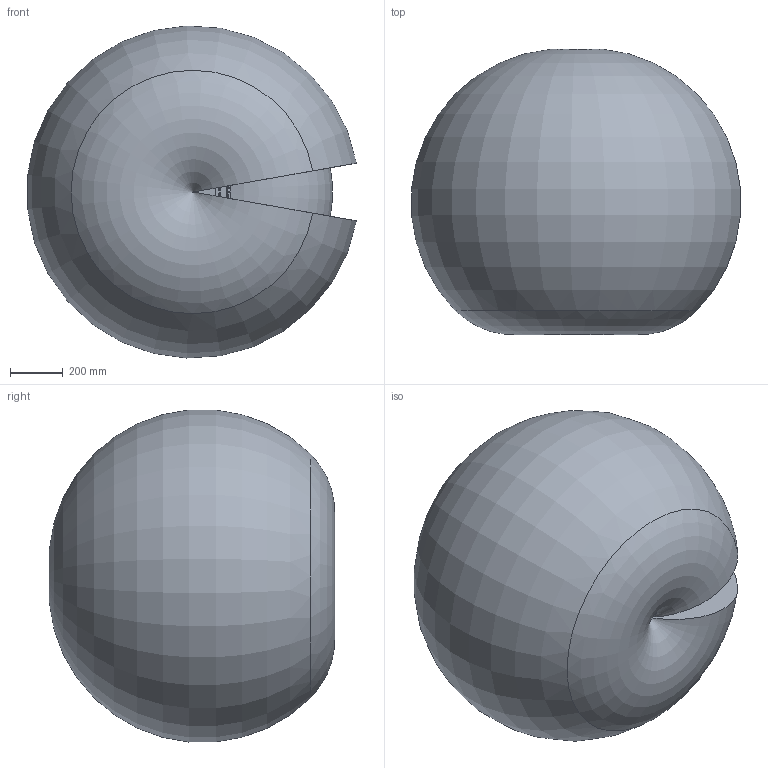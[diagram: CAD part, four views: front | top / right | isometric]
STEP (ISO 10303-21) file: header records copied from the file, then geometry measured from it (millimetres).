
FILE_DESCRIPTION (( 'STEP AP214' ), '1' );
FILE_NAME ('Racer3_p00 (3D-STEP).STEP', '2015-11-11T16:19:30', ( '' ), ( '' ), 'SwSTEP 2.0', 'SolidWorks 2014', '' );
FILE_SCHEMA (( 'AUTOMOTIVE_DESIGN' ));
Length unit declared in the file: millimetre
Products named in the file (9): Operation Area Racer3; Racer3_p07; Racer3_p06; Racer3_p05; Racer3_p04; Racer3_p03; Racer3_p02; Racer3_p01; Racer3_p00 (3D-STEP)
Assembly tree (8 placements, depth 2):
  Racer3_p00 (3D-STEP)
    Racer3_p01
    Racer3_p02
    Racer3_p03
    Racer3_p04
    Racer3_p05
    Racer3_p06
    Racer3_p07
    Operation Area Racer3
Bounding box: 1242.8 x 1078.33 x 1254.8 mm (x, y, z)
Volume: 911254713.8 mm3; surface area: 7673593.6 mm2
Topology: 8 solids, 13 shells, 2762 faces, 7361 edges, 4709 vertices
Faces by surface type: bspline 1168, cylinder 721, plane 720, cone 100, torus 52, sphere 1
Entity records: 436012 total; most frequent: CARTESIAN_POINT 367368, ORIENTED_EDGE 14632, DIRECTION 8207, EDGE_CURVE 7316, VERTEX_POINT 4708, B_SPLINE_CURVE_WITH_KNOTS 3634, AXIS2_PLACEMENT_3D 3108, EDGE_LOOP 2924
